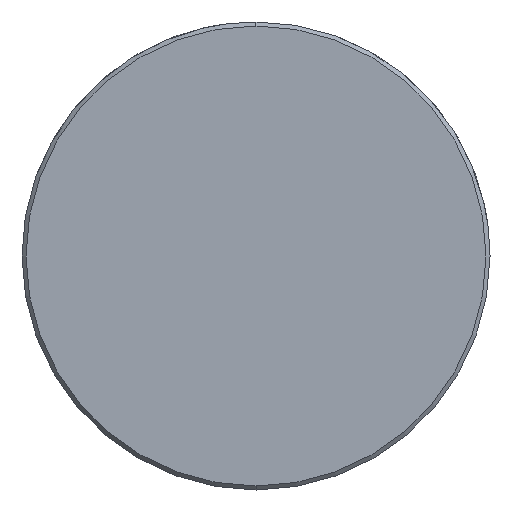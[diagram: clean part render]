
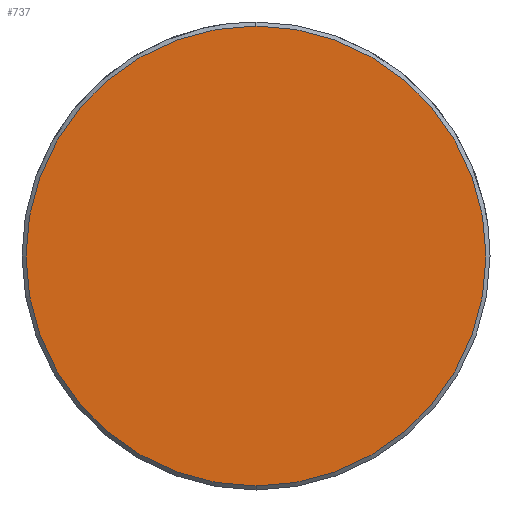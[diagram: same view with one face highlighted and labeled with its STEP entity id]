
A CAD part, left-side view. The second image highlights one B-rep face of the part: STEP entity #737.
In plain terms, the highlighted planar face has unit normal (-1, 0, 0).
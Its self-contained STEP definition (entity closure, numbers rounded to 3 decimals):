
#669=CARTESIAN_POINT('Vertex',(0.,0.,-17.2)) ;
#672=CARTESIAN_POINT('Axis2P3D Location',(0.,0.,0.)) ;
#676=CARTESIAN_POINT('Vertex',(0.,17.2,0.)) ;
#679=CARTESIAN_POINT('Axis2P3D Location',(0.,0.,0.)) ;
#683=CARTESIAN_POINT('Vertex',(0.,0.,17.2)) ;
#705=CARTESIAN_POINT('Axis2P3D Location',(0.,0.,0.)) ;
#709=CARTESIAN_POINT('Vertex',(0.,-17.2,0.)) ;
#712=CARTESIAN_POINT('Axis2P3D Location',(0.,0.,0.)) ;
#726=CARTESIAN_POINT('Axis2P3D Location',(0.,0.,0.)) ;
#673=DIRECTION('Axis2P3D Direction',(1.,0.,-0.)) ;
#680=DIRECTION('Axis2P3D Direction',(1.,0.,-0.)) ;
#706=DIRECTION('Axis2P3D Direction',(1.,0.,-0.)) ;
#713=DIRECTION('Axis2P3D Direction',(1.,0.,-0.)) ;
#727=DIRECTION('Axis2P3D Direction',(1.,0.,-0.)) ;
#728=DIRECTION('Axis2P3D XDirection',(-0.,0.,-1.)) ;
#674=AXIS2_PLACEMENT_3D('Circle Axis2P3D',#672,#673,$) ;
#681=AXIS2_PLACEMENT_3D('Circle Axis2P3D',#679,#680,$) ;
#707=AXIS2_PLACEMENT_3D('Circle Axis2P3D',#705,#706,$) ;
#714=AXIS2_PLACEMENT_3D('Circle Axis2P3D',#712,#713,$) ;
#729=AXIS2_PLACEMENT_3D('Plane Axis2P3D',#726,#727,#728) ;
#732=ORIENTED_EDGE('',*,*,#678,.F.) ;
#733=ORIENTED_EDGE('',*,*,#716,.F.) ;
#734=ORIENTED_EDGE('',*,*,#711,.F.) ;
#735=ORIENTED_EDGE('',*,*,#685,.F.) ;
#737=ADVANCED_FACE('549-32X280',(#736),#730,.F.) ;
#675=CIRCLE('generated circle',#674,17.2) ;
#682=CIRCLE('generated circle',#681,17.2) ;
#708=CIRCLE('generated circle',#707,17.2) ;
#715=CIRCLE('generated circle',#714,17.2) ;
#678=EDGE_CURVE('',#670,#677,#675,.T.) ;
#685=EDGE_CURVE('',#677,#684,#682,.T.) ;
#711=EDGE_CURVE('',#684,#710,#708,.T.) ;
#716=EDGE_CURVE('',#710,#670,#715,.T.) ;
#731=EDGE_LOOP('',(#732,#733,#734,#735)) ;
#736=FACE_OUTER_BOUND('',#731,.T.) ;
#730=PLANE('Plane',#729) ;
#670=VERTEX_POINT('',#669) ;
#677=VERTEX_POINT('',#676) ;
#684=VERTEX_POINT('',#683) ;
#710=VERTEX_POINT('',#709) ;
